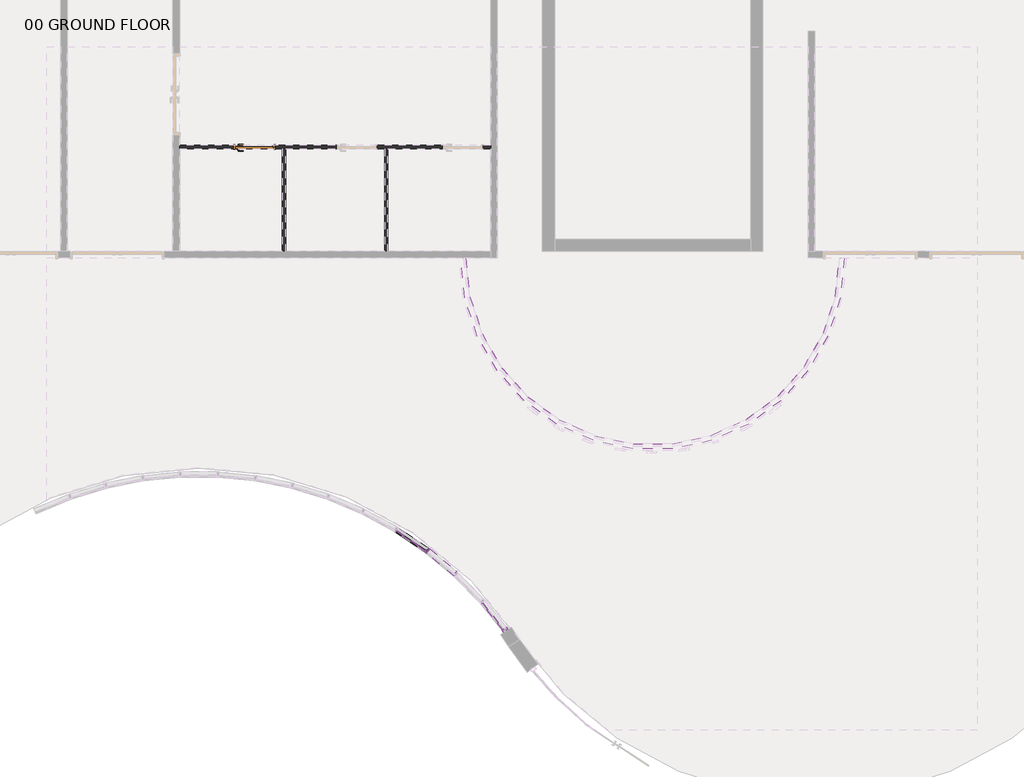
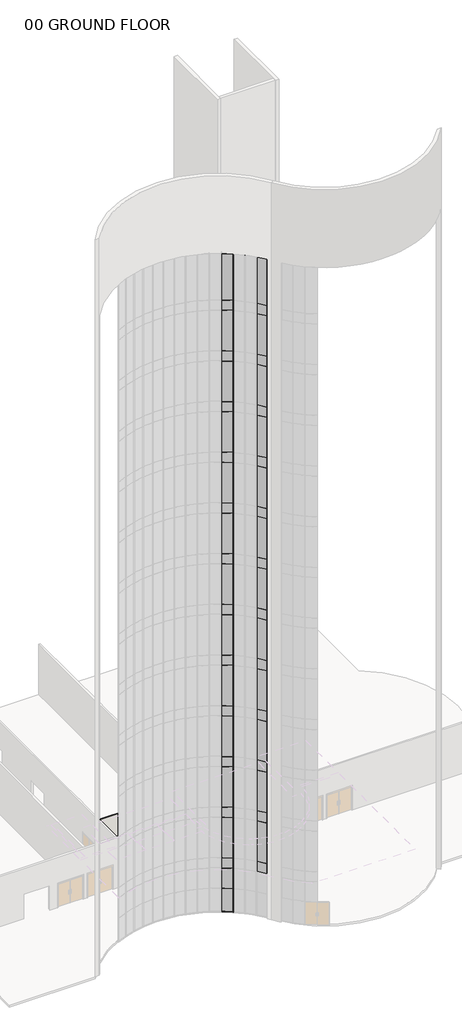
# One storey, part 12 of 33: 52 members, 50 plates, 4 walls, 1 door.
"""IFC4 building model written with IfcOpenShell, lengths in millimetres."""

from ifc_helpers import new_model, si_unit, frame, origin, origin_with_axes, place, context, project, spatial, polyline, circle_curve, outline, extrude, faceted_brep, transform, mapped, element, save
from ifc_brep_helpers import plane_surface, cylinder_surface, revolved_surface, advanced_brep
from components import door_f8b587be, member_2fae0574, member_73c23c35, member_4d31274b, member_ab6b85c2, member_7cbddb58, member_d60e8053, member_410c6227, member_810865a4, member_9e61c091, system_panel_su_blue_992d2dbe, system_panel_su_blue_f02faf6b, system_panel_su_blue_374c38cf, system_panel_su_blue_144861c6, system_panel_su_blue_3fa13865, system_panel_su_blue_654c3fe2, system_panel_su_blue_edec432c, system_panel_su_blue_af244712

model = new_model("IFC4")

# Units and contexts
model_context = context("Model", 3, world=origin())
ifc_project = project(units=[si_unit("LENGTHUNIT", "METRE", prefix="MILLI")], contexts=[model_context])

# Site, building, storey
site = spatial("IfcSite", under=ifc_project)
building = spatial("IfcBuilding", under=site)
storey = spatial("IfcBuildingStorey", under=building, Name="00 GROUND FLOOR", Elevation=0.0)

# Door
placement = place(None, origin())
door_shape = door_f8b587be(model_context)
element("IfcDoor", 1, ObjectType="Door-Passage-Single-Flush : 36\" x 96\"", at=placement, inside=storey, context=model_context, shape_type="MappedRepresentation", body=[
    mapped(door_shape, transform((16405.7775257, 11861.8, 0.0), x_axis=(1.0, 0.0, 0.0), y_axis=(0.0, 1.0, 0.0), z_axis=(0.0, 0.0, 1.0))),
])

# Members
member_shape = member_2fae0574(model_context)
element("IfcMember", 2, ObjectType="Rectangular Mullion : 2.5\" x 5\" rectangular", at=placement, inside=storey, context=model_context, shape_type="MappedRepresentation", body=[
    mapped(member_shape, transform((22378.5173022, 362.2740469, 3962.4), x_axis=(0.624940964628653, -0.7806720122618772, 0.0), y_axis=(0.7806720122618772, 0.624940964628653, 0.0), z_axis=(0.0, 0.0, 1.0))),
])
member_2_shape = member_73c23c35(model_context)
element("IfcMember", 3, ObjectType="Rectangular Mullion : 2.5\" x 5\" rectangular", at=placement, inside=storey, context=model_context, shape_type="MappedRepresentation", body=[
    mapped(member_2_shape, transform((22378.5173022, 362.2740469, 4876.8), x_axis=(0.624940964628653, -0.7806720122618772, 0.0), y_axis=(0.7806720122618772, 0.624940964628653, 0.0), z_axis=(0.0, 0.0, 1.0))),
])
element("IfcMember", 4, ObjectType="Rectangular Mullion : 2.5\" x 5\" rectangular", at=placement, inside=storey, context=model_context, shape_type="MappedRepresentation", body=[
    mapped(member_2_shape, transform((22378.5173022, 362.2740469, 9448.8), x_axis=(0.624940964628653, -0.7806720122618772, 0.0), y_axis=(0.7806720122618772, 0.624940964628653, 0.0), z_axis=(0.0, 0.0, 1.0))),
])
element("IfcMember", 5, ObjectType="Rectangular Mullion : 2.5\" x 5\" rectangular", at=placement, inside=storey, context=model_context, shape_type="MappedRepresentation", body=[
    mapped(member_2_shape, transform((22378.5173022, 362.2740469, 14020.8), x_axis=(0.624940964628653, -0.7806720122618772, 0.0), y_axis=(0.7806720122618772, 0.624940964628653, 0.0), z_axis=(0.0, 0.0, 1.0))),
])
element("IfcMember", 6, ObjectType="Rectangular Mullion : 2.5\" x 5\" rectangular", at=placement, inside=storey, context=model_context, shape_type="MappedRepresentation", body=[
    mapped(member_2_shape, transform((22378.5173022, 362.2740469, 18592.8), x_axis=(0.624940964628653, -0.7806720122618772, 0.0), y_axis=(0.7806720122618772, 0.624940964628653, 0.0), z_axis=(0.0, 0.0, 1.0))),
])
element("IfcMember", 7, ObjectType="Rectangular Mullion : 2.5\" x 5\" rectangular", at=placement, inside=storey, context=model_context, shape_type="MappedRepresentation", body=[
    mapped(member_2_shape, transform((22378.5173022, 362.2740469, 23164.8), x_axis=(0.624940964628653, -0.7806720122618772, 0.0), y_axis=(0.7806720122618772, 0.624940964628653, 0.0), z_axis=(0.0, 0.0, 1.0))),
])
element("IfcMember", 8, ObjectType="Rectangular Mullion : 2.5\" x 5\" rectangular", at=placement, inside=storey, context=model_context, shape_type="MappedRepresentation", body=[
    mapped(member_2_shape, transform((22378.5173022, 362.2740469, 27736.8), x_axis=(0.624940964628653, -0.7806720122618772, 0.0), y_axis=(0.7806720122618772, 0.624940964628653, 0.0), z_axis=(0.0, 0.0, 1.0))),
])
element("IfcMember", 9, ObjectType="Rectangular Mullion : 2.5\" x 5\" rectangular", at=placement, inside=storey, context=model_context, shape_type="MappedRepresentation", body=[
    mapped(member_2_shape, transform((22378.5173022, 362.2740469, 32308.8), x_axis=(0.624940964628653, -0.7806720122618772, 0.0), y_axis=(0.7806720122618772, 0.624940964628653, 0.0), z_axis=(0.0, 0.0, 1.0))),
])
element("IfcMember", 10, ObjectType="Rectangular Mullion : 2.5\" x 5\" rectangular", at=placement, inside=storey, context=model_context, shape_type="MappedRepresentation", body=[
    mapped(member_2_shape, transform((22378.5173022, 362.2740469, 36880.8), x_axis=(0.624940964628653, -0.7806720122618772, 0.0), y_axis=(0.7806720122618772, 0.624940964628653, 0.0), z_axis=(0.0, 0.0, 1.0))),
])
element("IfcMember", 11, ObjectType="Rectangular Mullion : 2.5\" x 5\" rectangular", at=placement, inside=storey, context=model_context, shape_type="MappedRepresentation", body=[
    mapped(member_2_shape, transform((22378.5173022, 362.2740469, 41452.8), x_axis=(0.624940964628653, -0.7806720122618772, 0.0), y_axis=(0.7806720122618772, 0.624940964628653, 0.0), z_axis=(0.0, 0.0, 1.0))),
])
element("IfcMember", 12, ObjectType="Rectangular Mullion : 2.5\" x 5\" rectangular", at=placement, inside=storey, context=model_context, shape_type="MappedRepresentation", body=[
    mapped(member_2_shape, transform((22378.5173022, 362.2740469, 46024.8), x_axis=(0.624940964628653, -0.7806720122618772, 0.0), y_axis=(0.7806720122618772, 0.624940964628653, 0.0), z_axis=(0.0, 0.0, 1.0))),
])
element("IfcMember", 13, ObjectType="Rectangular Mullion : 2.5\" x 5\" rectangular", at=placement, inside=storey, context=model_context, shape_type="MappedRepresentation", body=[
    mapped(member_2_shape, transform((22378.5173022, 362.2740469, 50596.8), x_axis=(0.624940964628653, -0.7806720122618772, 0.0), y_axis=(0.7806720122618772, 0.624940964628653, 0.0), z_axis=(0.0, 0.0, 1.0))),
])
element("IfcMember", 14, ObjectType="Rectangular Mullion : 2.5\" x 5\" rectangular", at=placement, inside=storey, context=model_context, shape_type="MappedRepresentation", body=[
    mapped(member_2_shape, transform((22378.5173022, 362.2740469, 55168.8), x_axis=(0.624940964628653, -0.7806720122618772, 0.0), y_axis=(0.7806720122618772, 0.624940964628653, 0.0), z_axis=(0.0, 0.0, 1.0))),
])
member_3_shape = member_4d31274b(model_context)
element("IfcMember", 15, ObjectType="Rectangular Mullion : 2.5\" x 5\" rectangular", at=placement, inside=storey, context=model_context, shape_type="MappedRepresentation", body=[
    mapped(member_3_shape, transform((22378.5173022, 362.2740469, 8534.4), x_axis=(0.624940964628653, -0.7806720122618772, 0.0), y_axis=(0.7806720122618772, 0.624940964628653, 0.0), z_axis=(0.0, 0.0, 1.0))),
])
element("IfcMember", 16, ObjectType="Rectangular Mullion : 2.5\" x 5\" rectangular", at=placement, inside=storey, context=model_context, shape_type="MappedRepresentation", body=[
    mapped(member_3_shape, transform((22378.5173022, 362.2740469, 13106.4), x_axis=(0.624940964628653, -0.7806720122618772, 0.0), y_axis=(0.7806720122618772, 0.624940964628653, 0.0), z_axis=(0.0, 0.0, 1.0))),
])
element("IfcMember", 17, ObjectType="Rectangular Mullion : 2.5\" x 5\" rectangular", at=placement, inside=storey, context=model_context, shape_type="MappedRepresentation", body=[
    mapped(member_3_shape, transform((22378.5173022, 362.2740469, 17678.4), x_axis=(0.624940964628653, -0.7806720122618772, 0.0), y_axis=(0.7806720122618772, 0.624940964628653, 0.0), z_axis=(0.0, 0.0, 1.0))),
])
element("IfcMember", 18, ObjectType="Rectangular Mullion : 2.5\" x 5\" rectangular", at=placement, inside=storey, context=model_context, shape_type="MappedRepresentation", body=[
    mapped(member_3_shape, transform((22378.5173022, 362.2740469, 22250.4), x_axis=(0.624940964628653, -0.7806720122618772, 0.0), y_axis=(0.7806720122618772, 0.624940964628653, 0.0), z_axis=(0.0, 0.0, 1.0))),
])
element("IfcMember", 19, ObjectType="Rectangular Mullion : 2.5\" x 5\" rectangular", at=placement, inside=storey, context=model_context, shape_type="MappedRepresentation", body=[
    mapped(member_3_shape, transform((22378.5173022, 362.2740469, 26822.4), x_axis=(0.624940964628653, -0.7806720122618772, 0.0), y_axis=(0.7806720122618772, 0.624940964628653, 0.0), z_axis=(0.0, 0.0, 1.0))),
])
element("IfcMember", 20, ObjectType="Rectangular Mullion : 2.5\" x 5\" rectangular", at=placement, inside=storey, context=model_context, shape_type="MappedRepresentation", body=[
    mapped(member_3_shape, transform((22378.5173022, 362.2740469, 31394.4), x_axis=(0.624940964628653, -0.7806720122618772, 0.0), y_axis=(0.7806720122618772, 0.624940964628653, 0.0), z_axis=(0.0, 0.0, 1.0))),
])
element("IfcMember", 21, ObjectType="Rectangular Mullion : 2.5\" x 5\" rectangular", at=placement, inside=storey, context=model_context, shape_type="MappedRepresentation", body=[
    mapped(member_3_shape, transform((22378.5173022, 362.2740469, 35966.4), x_axis=(0.624940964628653, -0.7806720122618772, 0.0), y_axis=(0.7806720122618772, 0.624940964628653, 0.0), z_axis=(0.0, 0.0, 1.0))),
])
element("IfcMember", 22, ObjectType="Rectangular Mullion : 2.5\" x 5\" rectangular", at=placement, inside=storey, context=model_context, shape_type="MappedRepresentation", body=[
    mapped(member_3_shape, transform((22378.5173022, 362.2740469, 40538.4), x_axis=(0.624940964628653, -0.7806720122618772, 0.0), y_axis=(0.7806720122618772, 0.624940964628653, 0.0), z_axis=(0.0, 0.0, 1.0))),
])
element("IfcMember", 23, ObjectType="Rectangular Mullion : 2.5\" x 5\" rectangular", at=placement, inside=storey, context=model_context, shape_type="MappedRepresentation", body=[
    mapped(member_3_shape, transform((22378.5173022, 362.2740469, 45110.4), x_axis=(0.624940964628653, -0.7806720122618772, 0.0), y_axis=(0.7806720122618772, 0.624940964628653, 0.0), z_axis=(0.0, 0.0, 1.0))),
])
element("IfcMember", 24, ObjectType="Rectangular Mullion : 2.5\" x 5\" rectangular", at=placement, inside=storey, context=model_context, shape_type="MappedRepresentation", body=[
    mapped(member_3_shape, transform((22378.5173022, 362.2740469, 49682.4), x_axis=(0.624940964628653, -0.7806720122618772, 0.0), y_axis=(0.7806720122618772, 0.624940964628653, 0.0), z_axis=(0.0, 0.0, 1.0))),
])
element("IfcMember", 25, ObjectType="Rectangular Mullion : 2.5\" x 5\" rectangular", at=placement, inside=storey, context=model_context, shape_type="MappedRepresentation", body=[
    mapped(member_3_shape, transform((22378.5173022, 362.2740469, 54254.4), x_axis=(0.624940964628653, -0.7806720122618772, 0.0), y_axis=(0.7806720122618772, 0.624940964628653, 0.0), z_axis=(0.0, 0.0, 1.0))),
])
member_4_shape = member_ab6b85c2(model_context)
element("IfcMember", 26, ObjectType="Rectangular Mullion : 2.5\" x 5\" rectangular", at=placement, inside=storey, context=model_context, shape_type="MappedRepresentation", body=[
    mapped(member_4_shape, transform((20532.7602276, 2252.9055245, 59436.0), x_axis=(0.0, 0.0, 1.0), y_axis=(0.6416802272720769, 0.7669722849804, 0.0), z_axis=(-0.7669722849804, 0.6416802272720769, 0.0))),
])
element("IfcMember", 27, ObjectType="Rectangular Mullion : 2.5\" x 5\" rectangular", at=placement, inside=storey, context=model_context, shape_type="MappedRepresentation", body=[
    mapped(member_4_shape, transform((20482.1536487, 2291.1317848, 0.0), x_axis=(0.0, 0.0, -1.0), y_axis=(0.562296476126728, 0.8269357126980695, 0.0), z_axis=(0.8269357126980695, -0.562296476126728, 0.0))),
])
member_5_shape = member_7cbddb58(model_context)
element("IfcMember", 28, ObjectType="Rectangular Mullion : 2.5\" x 5\" rectangular", at=placement, inside=storey, context=model_context, shape_type="MappedRepresentation", body=[
    mapped(member_5_shape, transform((20508.4088575, 2273.2788717, 0.0), x_axis=(-0.797941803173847, 0.6027345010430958, 0.0), y_axis=(0.6027345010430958, 0.797941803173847, 0.0), z_axis=(0.0, 0.0, -1.0))),
])
member_6_shape = member_d60e8053(model_context)
element("IfcMember", 29, ObjectType="Rectangular Mullion : 2.5\" x 5\" rectangular", at=placement, inside=storey, context=model_context, shape_type="MappedRepresentation", body=[
    mapped(member_6_shape, transform((20508.4088575, 2273.2788717, 2133.6), x_axis=(-0.797941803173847, 0.6027345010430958, 0.0), y_axis=(0.6027345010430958, 0.797941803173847, 0.0), z_axis=(0.0, 0.0, -1.0))),
])
member_7_shape = member_410c6227(model_context)
element("IfcMember", 30, ObjectType="Rectangular Mullion : 2.5\" x 5\" rectangular", at=placement, inside=storey, context=model_context, shape_type="MappedRepresentation", body=[
    mapped(member_7_shape, transform((20508.4088575, 2273.2788717, 3962.4), x_axis=(-0.797941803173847, 0.6027345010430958, 0.0), y_axis=(0.6027345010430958, 0.797941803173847, 0.0), z_axis=(0.0, 0.0, -1.0))),
])
element("IfcMember", 31, ObjectType="Rectangular Mullion : 2.5\" x 5\" rectangular", at=placement, inside=storey, context=model_context, shape_type="MappedRepresentation", body=[
    mapped(member_7_shape, transform((20508.4088575, 2273.2788717, 8534.4), x_axis=(-0.797941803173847, 0.6027345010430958, 0.0), y_axis=(0.6027345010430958, 0.797941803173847, 0.0), z_axis=(0.0, 0.0, -1.0))),
])
element("IfcMember", 32, ObjectType="Rectangular Mullion : 2.5\" x 5\" rectangular", at=placement, inside=storey, context=model_context, shape_type="MappedRepresentation", body=[
    mapped(member_7_shape, transform((20508.4088575, 2273.2788717, 13106.4), x_axis=(-0.797941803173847, 0.6027345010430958, 0.0), y_axis=(0.6027345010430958, 0.797941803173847, 0.0), z_axis=(0.0, 0.0, -1.0))),
])
element("IfcMember", 33, ObjectType="Rectangular Mullion : 2.5\" x 5\" rectangular", at=placement, inside=storey, context=model_context, shape_type="MappedRepresentation", body=[
    mapped(member_7_shape, transform((20508.4088575, 2273.2788717, 17678.4), x_axis=(-0.797941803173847, 0.6027345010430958, 0.0), y_axis=(0.6027345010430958, 0.797941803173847, 0.0), z_axis=(0.0, 0.0, -1.0))),
])
element("IfcMember", 34, ObjectType="Rectangular Mullion : 2.5\" x 5\" rectangular", at=placement, inside=storey, context=model_context, shape_type="MappedRepresentation", body=[
    mapped(member_7_shape, transform((20508.4088575, 2273.2788717, 22250.4), x_axis=(-0.797941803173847, 0.6027345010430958, 0.0), y_axis=(0.6027345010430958, 0.797941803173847, 0.0), z_axis=(0.0, 0.0, -1.0))),
])
element("IfcMember", 35, ObjectType="Rectangular Mullion : 2.5\" x 5\" rectangular", at=placement, inside=storey, context=model_context, shape_type="MappedRepresentation", body=[
    mapped(member_7_shape, transform((20508.4088575, 2273.2788717, 26822.4), x_axis=(-0.797941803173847, 0.6027345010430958, 0.0), y_axis=(0.6027345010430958, 0.797941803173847, 0.0), z_axis=(0.0, 0.0, -1.0))),
])
element("IfcMember", 36, ObjectType="Rectangular Mullion : 2.5\" x 5\" rectangular", at=placement, inside=storey, context=model_context, shape_type="MappedRepresentation", body=[
    mapped(member_7_shape, transform((20508.4088575, 2273.2788717, 31394.4), x_axis=(-0.797941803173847, 0.6027345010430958, 0.0), y_axis=(0.6027345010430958, 0.797941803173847, 0.0), z_axis=(0.0, 0.0, -1.0))),
])
element("IfcMember", 37, ObjectType="Rectangular Mullion : 2.5\" x 5\" rectangular", at=placement, inside=storey, context=model_context, shape_type="MappedRepresentation", body=[
    mapped(member_7_shape, transform((20508.4088575, 2273.2788717, 35966.4), x_axis=(-0.797941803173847, 0.6027345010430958, 0.0), y_axis=(0.6027345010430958, 0.797941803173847, 0.0), z_axis=(0.0, 0.0, -1.0))),
])
element("IfcMember", 38, ObjectType="Rectangular Mullion : 2.5\" x 5\" rectangular", at=placement, inside=storey, context=model_context, shape_type="MappedRepresentation", body=[
    mapped(member_7_shape, transform((20508.4088575, 2273.2788717, 40538.4), x_axis=(-0.797941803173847, 0.6027345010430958, 0.0), y_axis=(0.6027345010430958, 0.797941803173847, 0.0), z_axis=(0.0, 0.0, -1.0))),
])
element("IfcMember", 39, ObjectType="Rectangular Mullion : 2.5\" x 5\" rectangular", at=placement, inside=storey, context=model_context, shape_type="MappedRepresentation", body=[
    mapped(member_7_shape, transform((20508.4088575, 2273.2788717, 45110.4), x_axis=(-0.797941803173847, 0.6027345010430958, 0.0), y_axis=(0.6027345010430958, 0.797941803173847, 0.0), z_axis=(0.0, 0.0, -1.0))),
])
element("IfcMember", 40, ObjectType="Rectangular Mullion : 2.5\" x 5\" rectangular", at=placement, inside=storey, context=model_context, shape_type="MappedRepresentation", body=[
    mapped(member_7_shape, transform((20508.4088575, 2273.2788717, 49682.4), x_axis=(-0.7979418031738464, 0.6027345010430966, 0.0), y_axis=(0.6027345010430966, 0.7979418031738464, 0.0), z_axis=(0.0, 0.0, -1.0))),
])
element("IfcMember", 41, ObjectType="Rectangular Mullion : 2.5\" x 5\" rectangular", at=placement, inside=storey, context=model_context, shape_type="MappedRepresentation", body=[
    mapped(member_7_shape, transform((20508.4088575, 2273.2788717, 54254.4), x_axis=(-0.7979418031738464, 0.6027345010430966, 0.0), y_axis=(0.6027345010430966, 0.7979418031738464, 0.0), z_axis=(0.0, 0.0, -1.0))),
])
member_8_shape = member_810865a4(model_context)
element("IfcMember", 42, ObjectType="Rectangular Mullion : 2.5\" x 5\" rectangular", at=placement, inside=storey, context=model_context, shape_type="MappedRepresentation", body=[
    mapped(member_8_shape, transform((20508.4088575, 2273.2788717, 4876.8), x_axis=(-0.797941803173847, 0.6027345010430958, 0.0), y_axis=(0.6027345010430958, 0.797941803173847, 0.0), z_axis=(0.0, 0.0, -1.0))),
])
element("IfcMember", 43, ObjectType="Rectangular Mullion : 2.5\" x 5\" rectangular", at=placement, inside=storey, context=model_context, shape_type="MappedRepresentation", body=[
    mapped(member_8_shape, transform((20508.4088575, 2273.2788717, 9448.8), x_axis=(-0.797941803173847, 0.6027345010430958, 0.0), y_axis=(0.6027345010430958, 0.797941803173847, 0.0), z_axis=(0.0, 0.0, -1.0))),
])
element("IfcMember", 44, ObjectType="Rectangular Mullion : 2.5\" x 5\" rectangular", at=placement, inside=storey, context=model_context, shape_type="MappedRepresentation", body=[
    mapped(member_8_shape, transform((20508.4088575, 2273.2788717, 14020.8), x_axis=(-0.797941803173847, 0.6027345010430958, 0.0), y_axis=(0.6027345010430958, 0.797941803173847, 0.0), z_axis=(0.0, 0.0, -1.0))),
])
element("IfcMember", 45, ObjectType="Rectangular Mullion : 2.5\" x 5\" rectangular", at=placement, inside=storey, context=model_context, shape_type="MappedRepresentation", body=[
    mapped(member_8_shape, transform((20508.4088575, 2273.2788717, 18592.8), x_axis=(-0.797941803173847, 0.6027345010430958, 0.0), y_axis=(0.6027345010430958, 0.797941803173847, 0.0), z_axis=(0.0, 0.0, -1.0))),
])
element("IfcMember", 46, ObjectType="Rectangular Mullion : 2.5\" x 5\" rectangular", at=placement, inside=storey, context=model_context, shape_type="MappedRepresentation", body=[
    mapped(member_8_shape, transform((20508.4088575, 2273.2788717, 23164.8), x_axis=(-0.797941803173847, 0.6027345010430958, 0.0), y_axis=(0.6027345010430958, 0.797941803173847, 0.0), z_axis=(0.0, 0.0, -1.0))),
])
element("IfcMember", 47, ObjectType="Rectangular Mullion : 2.5\" x 5\" rectangular", at=placement, inside=storey, context=model_context, shape_type="MappedRepresentation", body=[
    mapped(member_8_shape, transform((20508.4088575, 2273.2788717, 27736.8), x_axis=(-0.797941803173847, 0.6027345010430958, 0.0), y_axis=(0.6027345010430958, 0.797941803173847, 0.0), z_axis=(0.0, 0.0, -1.0))),
])
element("IfcMember", 48, ObjectType="Rectangular Mullion : 2.5\" x 5\" rectangular", at=placement, inside=storey, context=model_context, shape_type="MappedRepresentation", body=[
    mapped(member_8_shape, transform((20508.4088575, 2273.2788717, 32308.8), x_axis=(-0.797941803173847, 0.6027345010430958, 0.0), y_axis=(0.6027345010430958, 0.797941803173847, 0.0), z_axis=(0.0, 0.0, -1.0))),
])
element("IfcMember", 49, ObjectType="Rectangular Mullion : 2.5\" x 5\" rectangular", at=placement, inside=storey, context=model_context, shape_type="MappedRepresentation", body=[
    mapped(member_8_shape, transform((20508.4088575, 2273.2788717, 36880.8), x_axis=(-0.797941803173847, 0.6027345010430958, 0.0), y_axis=(0.6027345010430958, 0.797941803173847, 0.0), z_axis=(0.0, 0.0, -1.0))),
])
element("IfcMember", 50, ObjectType="Rectangular Mullion : 2.5\" x 5\" rectangular", at=placement, inside=storey, context=model_context, shape_type="MappedRepresentation", body=[
    mapped(member_8_shape, transform((20508.4088575, 2273.2788717, 41452.8), x_axis=(-0.797941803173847, 0.6027345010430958, 0.0), y_axis=(0.6027345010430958, 0.797941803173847, 0.0), z_axis=(0.0, 0.0, -1.0))),
])
element("IfcMember", 51, ObjectType="Rectangular Mullion : 2.5\" x 5\" rectangular", at=placement, inside=storey, context=model_context, shape_type="MappedRepresentation", body=[
    mapped(member_8_shape, transform((20508.4088575, 2273.2788717, 46024.8), x_axis=(-0.7979418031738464, 0.6027345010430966, 0.0), y_axis=(0.6027345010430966, 0.7979418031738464, 0.0), z_axis=(0.0, 0.0, -1.0))),
])
element("IfcMember", 52, ObjectType="Rectangular Mullion : 2.5\" x 5\" rectangular", at=placement, inside=storey, context=model_context, shape_type="MappedRepresentation", body=[
    mapped(member_8_shape, transform((20508.4088575, 2273.2788717, 50596.8), x_axis=(-0.7979418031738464, 0.6027345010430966, 0.0), y_axis=(0.6027345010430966, 0.7979418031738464, 0.0), z_axis=(0.0, 0.0, -1.0))),
])
member_9_shape = member_9e61c091(model_context)
element("IfcMember", 53, ObjectType="Rectangular Mullion : 2.5\" x 5\" rectangular", at=placement, inside=storey, context=model_context, shape_type="MappedRepresentation", body=[
    mapped(member_9_shape, transform((20508.4088575, 2273.2788717, 55168.8), x_axis=(-0.7979418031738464, 0.6027345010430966, 0.0), y_axis=(0.6027345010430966, 0.7979418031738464, 0.0), z_axis=(0.0, 0.0, -1.0))),
])

# Plates
system_panel_su_blue_shape = system_panel_su_blue_992d2dbe(model_context)
element("IfcPlate", 54, ObjectType="System Panel : SU_BLUE", at=placement, inside=storey, context=model_context, shape_type="MappedRepresentation", body=[
    mapped(system_panel_su_blue_shape, transform((20138.6779553, 2524.6870286, 63.5), x_axis=(-0.8269357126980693, 0.5622964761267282, 0.0), y_axis=(-0.5622964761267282, -0.8269357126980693, 0.0), z_axis=(0.0, 0.0, 1.0))),
])
system_panel_su_blue_2_shape = system_panel_su_blue_f02faf6b(model_context)
element("IfcPlate", 55, ObjectType="System Panel : SU_BLUE", at=placement, inside=storey, context=model_context, shape_type="MappedRepresentation", body=[
    mapped(system_panel_su_blue_2_shape, transform((20138.6779553, 2524.6870286, 2133.6), x_axis=(-0.8269357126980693, 0.5622964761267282, 0.0), y_axis=(-0.5622964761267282, -0.8269357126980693, 0.0), z_axis=(0.0, 0.0, 1.0))),
])
system_panel_su_blue_3_shape = system_panel_su_blue_374c38cf(model_context)
element("IfcPlate", 56, ObjectType="System Panel : SU_BLUE", at=placement, inside=storey, context=model_context, shape_type="MappedRepresentation", body=[
    mapped(system_panel_su_blue_3_shape, transform((22089.1792519, 723.7131758, 3962.4), x_axis=(-0.624940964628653, 0.7806720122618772, 0.0), y_axis=(-0.7806720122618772, -0.624940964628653, 0.0), z_axis=(0.0, 0.0, 1.0))),
])
element("IfcPlate", 57, ObjectType="System Panel : SU_BLUE", at=placement, inside=storey, context=model_context, shape_type="MappedRepresentation", body=[
    mapped(system_panel_su_blue_3_shape, transform((22089.1792519, 723.7131758, 8534.4), x_axis=(-0.624940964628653, 0.7806720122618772, 0.0), y_axis=(-0.7806720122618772, -0.624940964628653, 0.0), z_axis=(0.0, 0.0, 1.0))),
])
element("IfcPlate", 58, ObjectType="System Panel : SU_BLUE", at=placement, inside=storey, context=model_context, shape_type="MappedRepresentation", body=[
    mapped(system_panel_su_blue_3_shape, transform((22089.1792519, 723.7131758, 13106.4), x_axis=(-0.624940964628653, 0.7806720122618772, 0.0), y_axis=(-0.7806720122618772, -0.624940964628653, 0.0), z_axis=(0.0, 0.0, 1.0))),
])
element("IfcPlate", 59, ObjectType="System Panel : SU_BLUE", at=placement, inside=storey, context=model_context, shape_type="MappedRepresentation", body=[
    mapped(system_panel_su_blue_3_shape, transform((22089.1792519, 723.7131758, 17678.4), x_axis=(-0.624940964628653, 0.7806720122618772, 0.0), y_axis=(-0.7806720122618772, -0.624940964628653, 0.0), z_axis=(0.0, 0.0, 1.0))),
])
element("IfcPlate", 60, ObjectType="System Panel : SU_BLUE", at=placement, inside=storey, context=model_context, shape_type="MappedRepresentation", body=[
    mapped(system_panel_su_blue_3_shape, transform((22089.1792519, 723.7131758, 22250.4), x_axis=(-0.624940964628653, 0.7806720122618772, 0.0), y_axis=(-0.7806720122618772, -0.624940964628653, 0.0), z_axis=(0.0, 0.0, 1.0))),
])
element("IfcPlate", 61, ObjectType="System Panel : SU_BLUE", at=placement, inside=storey, context=model_context, shape_type="MappedRepresentation", body=[
    mapped(system_panel_su_blue_3_shape, transform((22089.1792519, 723.7131758, 26822.4), x_axis=(-0.624940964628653, 0.7806720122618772, 0.0), y_axis=(-0.7806720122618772, -0.624940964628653, 0.0), z_axis=(0.0, 0.0, 1.0))),
])
element("IfcPlate", 62, ObjectType="System Panel : SU_BLUE", at=placement, inside=storey, context=model_context, shape_type="MappedRepresentation", body=[
    mapped(system_panel_su_blue_3_shape, transform((22089.1792519, 723.7131758, 31394.4), x_axis=(-0.624940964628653, 0.7806720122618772, 0.0), y_axis=(-0.7806720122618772, -0.624940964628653, 0.0), z_axis=(0.0, 0.0, 1.0))),
])
element("IfcPlate", 63, ObjectType="System Panel : SU_BLUE", at=placement, inside=storey, context=model_context, shape_type="MappedRepresentation", body=[
    mapped(system_panel_su_blue_3_shape, transform((22089.1792519, 723.7131758, 35966.4), x_axis=(-0.624940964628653, 0.7806720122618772, 0.0), y_axis=(-0.7806720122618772, -0.624940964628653, 0.0), z_axis=(0.0, 0.0, 1.0))),
])
element("IfcPlate", 64, ObjectType="System Panel : SU_BLUE", at=placement, inside=storey, context=model_context, shape_type="MappedRepresentation", body=[
    mapped(system_panel_su_blue_3_shape, transform((22089.1792519, 723.7131758, 40538.4), x_axis=(-0.624940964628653, 0.7806720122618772, 0.0), y_axis=(-0.7806720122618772, -0.624940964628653, 0.0), z_axis=(0.0, 0.0, 1.0))),
])
element("IfcPlate", 65, ObjectType="System Panel : SU_BLUE", at=placement, inside=storey, context=model_context, shape_type="MappedRepresentation", body=[
    mapped(system_panel_su_blue_3_shape, transform((22089.1792519, 723.7131758, 45110.4), x_axis=(-0.624940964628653, 0.7806720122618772, 0.0), y_axis=(-0.7806720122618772, -0.624940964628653, 0.0), z_axis=(0.0, 0.0, 1.0))),
])
element("IfcPlate", 66, ObjectType="System Panel : SU_BLUE", at=placement, inside=storey, context=model_context, shape_type="MappedRepresentation", body=[
    mapped(system_panel_su_blue_3_shape, transform((22089.1792519, 723.7131758, 49682.4), x_axis=(-0.624940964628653, 0.7806720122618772, 0.0), y_axis=(-0.7806720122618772, -0.624940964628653, 0.0), z_axis=(0.0, 0.0, 1.0))),
])
element("IfcPlate", 67, ObjectType="System Panel : SU_BLUE", at=placement, inside=storey, context=model_context, shape_type="MappedRepresentation", body=[
    mapped(system_panel_su_blue_3_shape, transform((22089.1792519, 723.7131758, 54254.4), x_axis=(-0.624940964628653, 0.7806720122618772, 0.0), y_axis=(-0.7806720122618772, -0.624940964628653, 0.0), z_axis=(0.0, 0.0, 1.0))),
])
system_panel_su_blue_4_shape = system_panel_su_blue_144861c6(model_context)
element("IfcPlate", 68, ObjectType="System Panel : SU_BLUE", at=placement, inside=storey, context=model_context, shape_type="MappedRepresentation", body=[
    mapped(system_panel_su_blue_4_shape, transform((20138.6779553, 2524.6870286, 3962.4), x_axis=(-0.8269357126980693, 0.5622964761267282, 0.0), y_axis=(-0.5622964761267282, -0.8269357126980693, 0.0), z_axis=(0.0, 0.0, 1.0))),
])
element("IfcPlate", 69, ObjectType="System Panel : SU_BLUE", at=placement, inside=storey, context=model_context, shape_type="MappedRepresentation", body=[
    mapped(system_panel_su_blue_4_shape, transform((20138.6779553, 2524.6870286, 8534.4), x_axis=(-0.8269357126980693, 0.5622964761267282, 0.0), y_axis=(-0.5622964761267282, -0.8269357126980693, 0.0), z_axis=(0.0, 0.0, 1.0))),
])
element("IfcPlate", 70, ObjectType="System Panel : SU_BLUE", at=placement, inside=storey, context=model_context, shape_type="MappedRepresentation", body=[
    mapped(system_panel_su_blue_4_shape, transform((20138.6779553, 2524.6870286, 13106.4), x_axis=(-0.8269357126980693, 0.5622964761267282, 0.0), y_axis=(-0.5622964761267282, -0.8269357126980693, 0.0), z_axis=(0.0, 0.0, 1.0))),
])
element("IfcPlate", 71, ObjectType="System Panel : SU_BLUE", at=placement, inside=storey, context=model_context, shape_type="MappedRepresentation", body=[
    mapped(system_panel_su_blue_4_shape, transform((20138.6779553, 2524.6870286, 17678.4), x_axis=(-0.8269357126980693, 0.5622964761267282, 0.0), y_axis=(-0.5622964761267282, -0.8269357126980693, 0.0), z_axis=(0.0, 0.0, 1.0))),
])
element("IfcPlate", 72, ObjectType="System Panel : SU_BLUE", at=placement, inside=storey, context=model_context, shape_type="MappedRepresentation", body=[
    mapped(system_panel_su_blue_4_shape, transform((20138.6779553, 2524.6870286, 22250.4), x_axis=(-0.8269357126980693, 0.5622964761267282, 0.0), y_axis=(-0.5622964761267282, -0.8269357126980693, 0.0), z_axis=(0.0, 0.0, 1.0))),
])
element("IfcPlate", 73, ObjectType="System Panel : SU_BLUE", at=placement, inside=storey, context=model_context, shape_type="MappedRepresentation", body=[
    mapped(system_panel_su_blue_4_shape, transform((20138.6779553, 2524.6870286, 26822.4), x_axis=(-0.8269357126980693, 0.5622964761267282, 0.0), y_axis=(-0.5622964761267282, -0.8269357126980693, 0.0), z_axis=(0.0, 0.0, 1.0))),
])
element("IfcPlate", 74, ObjectType="System Panel : SU_BLUE", at=placement, inside=storey, context=model_context, shape_type="MappedRepresentation", body=[
    mapped(system_panel_su_blue_4_shape, transform((20138.6779553, 2524.6870286, 31394.4), x_axis=(-0.8269357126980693, 0.5622964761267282, 0.0), y_axis=(-0.5622964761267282, -0.8269357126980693, 0.0), z_axis=(0.0, 0.0, 1.0))),
])
element("IfcPlate", 75, ObjectType="System Panel : SU_BLUE", at=placement, inside=storey, context=model_context, shape_type="MappedRepresentation", body=[
    mapped(system_panel_su_blue_4_shape, transform((20138.6779553, 2524.6870286, 35966.4), x_axis=(-0.8269357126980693, 0.5622964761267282, 0.0), y_axis=(-0.5622964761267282, -0.8269357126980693, 0.0), z_axis=(0.0, 0.0, 1.0))),
])
element("IfcPlate", 76, ObjectType="System Panel : SU_BLUE", at=placement, inside=storey, context=model_context, shape_type="MappedRepresentation", body=[
    mapped(system_panel_su_blue_4_shape, transform((20138.6779553, 2524.6870286, 40538.4), x_axis=(-0.8269357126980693, 0.5622964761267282, 0.0), y_axis=(-0.5622964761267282, -0.8269357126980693, 0.0), z_axis=(0.0, 0.0, 1.0))),
])
element("IfcPlate", 77, ObjectType="System Panel : SU_BLUE", at=placement, inside=storey, context=model_context, shape_type="MappedRepresentation", body=[
    mapped(system_panel_su_blue_4_shape, transform((20138.6779553, 2524.6870286, 45110.4), x_axis=(-0.8269357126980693, 0.5622964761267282, 0.0), y_axis=(-0.5622964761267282, -0.8269357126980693, 0.0), z_axis=(0.0, 0.0, 1.0))),
])
element("IfcPlate", 78, ObjectType="System Panel : SU_BLUE", at=placement, inside=storey, context=model_context, shape_type="MappedRepresentation", body=[
    mapped(system_panel_su_blue_4_shape, transform((20138.6779553, 2524.6870286, 49682.4), x_axis=(-0.8269357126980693, 0.5622964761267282, 0.0), y_axis=(-0.5622964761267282, -0.8269357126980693, 0.0), z_axis=(0.0, 0.0, 1.0))),
])
element("IfcPlate", 79, ObjectType="System Panel : SU_BLUE", at=placement, inside=storey, context=model_context, shape_type="MappedRepresentation", body=[
    mapped(system_panel_su_blue_4_shape, transform((20138.6779553, 2524.6870286, 54254.4), x_axis=(-0.8269357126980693, 0.5622964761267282, 0.0), y_axis=(-0.5622964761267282, -0.8269357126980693, 0.0), z_axis=(0.0, 0.0, 1.0))),
])
system_panel_su_blue_5_shape = system_panel_su_blue_3fa13865(model_context)
element("IfcPlate", 80, ObjectType="System Panel : SU_BLUE", at=placement, inside=storey, context=model_context, shape_type="MappedRepresentation", body=[
    mapped(system_panel_su_blue_5_shape, transform((22089.1792519, 723.7131758, 4876.8), x_axis=(-0.624940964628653, 0.7806720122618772, 0.0), y_axis=(-0.7806720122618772, -0.624940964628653, 0.0), z_axis=(0.0, 0.0, 1.0))),
])
element("IfcPlate", 81, ObjectType="System Panel : SU_BLUE", at=placement, inside=storey, context=model_context, shape_type="MappedRepresentation", body=[
    mapped(system_panel_su_blue_5_shape, transform((22089.1792519, 723.7131758, 9448.8), x_axis=(-0.624940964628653, 0.7806720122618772, 0.0), y_axis=(-0.7806720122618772, -0.624940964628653, 0.0), z_axis=(0.0, 0.0, 1.0))),
])
element("IfcPlate", 82, ObjectType="System Panel : SU_BLUE", at=placement, inside=storey, context=model_context, shape_type="MappedRepresentation", body=[
    mapped(system_panel_su_blue_5_shape, transform((22089.1792519, 723.7131758, 14020.8), x_axis=(-0.624940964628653, 0.7806720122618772, 0.0), y_axis=(-0.7806720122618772, -0.624940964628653, 0.0), z_axis=(0.0, 0.0, 1.0))),
])
element("IfcPlate", 83, ObjectType="System Panel : SU_BLUE", at=placement, inside=storey, context=model_context, shape_type="MappedRepresentation", body=[
    mapped(system_panel_su_blue_5_shape, transform((22089.1792519, 723.7131758, 18592.8), x_axis=(-0.624940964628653, 0.7806720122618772, 0.0), y_axis=(-0.7806720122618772, -0.624940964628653, 0.0), z_axis=(0.0, 0.0, 1.0))),
])
element("IfcPlate", 84, ObjectType="System Panel : SU_BLUE", at=placement, inside=storey, context=model_context, shape_type="MappedRepresentation", body=[
    mapped(system_panel_su_blue_5_shape, transform((22089.1792519, 723.7131758, 23164.8), x_axis=(-0.624940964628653, 0.7806720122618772, 0.0), y_axis=(-0.7806720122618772, -0.624940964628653, 0.0), z_axis=(0.0, 0.0, 1.0))),
])
element("IfcPlate", 85, ObjectType="System Panel : SU_BLUE", at=placement, inside=storey, context=model_context, shape_type="MappedRepresentation", body=[
    mapped(system_panel_su_blue_5_shape, transform((22089.1792519, 723.7131758, 27736.8), x_axis=(-0.624940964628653, 0.7806720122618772, 0.0), y_axis=(-0.7806720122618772, -0.624940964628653, 0.0), z_axis=(0.0, 0.0, 1.0))),
])
element("IfcPlate", 86, ObjectType="System Panel : SU_BLUE", at=placement, inside=storey, context=model_context, shape_type="MappedRepresentation", body=[
    mapped(system_panel_su_blue_5_shape, transform((22089.1792519, 723.7131758, 32308.8), x_axis=(-0.624940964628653, 0.7806720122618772, 0.0), y_axis=(-0.7806720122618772, -0.624940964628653, 0.0), z_axis=(0.0, 0.0, 1.0))),
])
element("IfcPlate", 87, ObjectType="System Panel : SU_BLUE", at=placement, inside=storey, context=model_context, shape_type="MappedRepresentation", body=[
    mapped(system_panel_su_blue_5_shape, transform((22089.1792519, 723.7131758, 36880.8), x_axis=(-0.624940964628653, 0.7806720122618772, 0.0), y_axis=(-0.7806720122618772, -0.624940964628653, 0.0), z_axis=(0.0, 0.0, 1.0))),
])
element("IfcPlate", 88, ObjectType="System Panel : SU_BLUE", at=placement, inside=storey, context=model_context, shape_type="MappedRepresentation", body=[
    mapped(system_panel_su_blue_5_shape, transform((22089.1792519, 723.7131758, 41452.8), x_axis=(-0.624940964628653, 0.7806720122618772, 0.0), y_axis=(-0.7806720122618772, -0.624940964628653, 0.0), z_axis=(0.0, 0.0, 1.0))),
])
element("IfcPlate", 89, ObjectType="System Panel : SU_BLUE", at=placement, inside=storey, context=model_context, shape_type="MappedRepresentation", body=[
    mapped(system_panel_su_blue_5_shape, transform((22089.1792519, 723.7131758, 46024.8), x_axis=(-0.624940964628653, 0.7806720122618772, 0.0), y_axis=(-0.7806720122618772, -0.624940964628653, 0.0), z_axis=(0.0, 0.0, 1.0))),
])
element("IfcPlate", 90, ObjectType="System Panel : SU_BLUE", at=placement, inside=storey, context=model_context, shape_type="MappedRepresentation", body=[
    mapped(system_panel_su_blue_5_shape, transform((22089.1792519, 723.7131758, 50596.8), x_axis=(-0.624940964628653, 0.7806720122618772, 0.0), y_axis=(-0.7806720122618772, -0.624940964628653, 0.0), z_axis=(0.0, 0.0, 1.0))),
])
system_panel_su_blue_6_shape = system_panel_su_blue_654c3fe2(model_context)
element("IfcPlate", 91, ObjectType="System Panel : SU_BLUE", at=placement, inside=storey, context=model_context, shape_type="MappedRepresentation", body=[
    mapped(system_panel_su_blue_6_shape, transform((20138.6779553, 2524.6870286, 4876.8), x_axis=(-0.8269357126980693, 0.5622964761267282, 0.0), y_axis=(-0.5622964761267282, -0.8269357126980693, 0.0), z_axis=(0.0, 0.0, 1.0))),
])
element("IfcPlate", 92, ObjectType="System Panel : SU_BLUE", at=placement, inside=storey, context=model_context, shape_type="MappedRepresentation", body=[
    mapped(system_panel_su_blue_6_shape, transform((20138.6779553, 2524.6870286, 9448.8), x_axis=(-0.8269357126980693, 0.5622964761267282, 0.0), y_axis=(-0.5622964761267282, -0.8269357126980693, 0.0), z_axis=(0.0, 0.0, 1.0))),
])
element("IfcPlate", 93, ObjectType="System Panel : SU_BLUE", at=placement, inside=storey, context=model_context, shape_type="MappedRepresentation", body=[
    mapped(system_panel_su_blue_6_shape, transform((20138.6779553, 2524.6870286, 14020.8), x_axis=(-0.8269357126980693, 0.5622964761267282, 0.0), y_axis=(-0.5622964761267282, -0.8269357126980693, 0.0), z_axis=(0.0, 0.0, 1.0))),
])
element("IfcPlate", 94, ObjectType="System Panel : SU_BLUE", at=placement, inside=storey, context=model_context, shape_type="MappedRepresentation", body=[
    mapped(system_panel_su_blue_6_shape, transform((20138.6779553, 2524.6870286, 18592.8), x_axis=(-0.8269357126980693, 0.5622964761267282, 0.0), y_axis=(-0.5622964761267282, -0.8269357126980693, 0.0), z_axis=(0.0, 0.0, 1.0))),
])
element("IfcPlate", 95, ObjectType="System Panel : SU_BLUE", at=placement, inside=storey, context=model_context, shape_type="MappedRepresentation", body=[
    mapped(system_panel_su_blue_6_shape, transform((20138.6779553, 2524.6870286, 23164.8), x_axis=(-0.8269357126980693, 0.5622964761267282, 0.0), y_axis=(-0.5622964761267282, -0.8269357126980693, 0.0), z_axis=(0.0, 0.0, 1.0))),
])
element("IfcPlate", 96, ObjectType="System Panel : SU_BLUE", at=placement, inside=storey, context=model_context, shape_type="MappedRepresentation", body=[
    mapped(system_panel_su_blue_6_shape, transform((20138.6779553, 2524.6870286, 27736.8), x_axis=(-0.8269357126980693, 0.5622964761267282, 0.0), y_axis=(-0.5622964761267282, -0.8269357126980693, 0.0), z_axis=(0.0, 0.0, 1.0))),
])
element("IfcPlate", 97, ObjectType="System Panel : SU_BLUE", at=placement, inside=storey, context=model_context, shape_type="MappedRepresentation", body=[
    mapped(system_panel_su_blue_6_shape, transform((20138.6779553, 2524.6870286, 32308.8), x_axis=(-0.8269357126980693, 0.5622964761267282, 0.0), y_axis=(-0.5622964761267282, -0.8269357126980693, 0.0), z_axis=(0.0, 0.0, 1.0))),
])
element("IfcPlate", 98, ObjectType="System Panel : SU_BLUE", at=placement, inside=storey, context=model_context, shape_type="MappedRepresentation", body=[
    mapped(system_panel_su_blue_6_shape, transform((20138.6779553, 2524.6870286, 36880.8), x_axis=(-0.8269357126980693, 0.5622964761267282, 0.0), y_axis=(-0.5622964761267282, -0.8269357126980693, 0.0), z_axis=(0.0, 0.0, 1.0))),
])
element("IfcPlate", 99, ObjectType="System Panel : SU_BLUE", at=placement, inside=storey, context=model_context, shape_type="MappedRepresentation", body=[
    mapped(system_panel_su_blue_6_shape, transform((20138.6779553, 2524.6870286, 41452.8), x_axis=(-0.8269357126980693, 0.5622964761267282, 0.0), y_axis=(-0.5622964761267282, -0.8269357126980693, 0.0), z_axis=(0.0, 0.0, 1.0))),
])
element("IfcPlate", 100, ObjectType="System Panel : SU_BLUE", at=placement, inside=storey, context=model_context, shape_type="MappedRepresentation", body=[
    mapped(system_panel_su_blue_6_shape, transform((20138.6779553, 2524.6870286, 46024.8), x_axis=(-0.8269357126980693, 0.5622964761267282, 0.0), y_axis=(-0.5622964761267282, -0.8269357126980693, 0.0), z_axis=(0.0, 0.0, 1.0))),
])
element("IfcPlate", 101, ObjectType="System Panel : SU_BLUE", at=placement, inside=storey, context=model_context, shape_type="MappedRepresentation", body=[
    mapped(system_panel_su_blue_6_shape, transform((20138.6779553, 2524.6870286, 50596.8), x_axis=(-0.8269357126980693, 0.5622964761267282, 0.0), y_axis=(-0.5622964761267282, -0.8269357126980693, 0.0), z_axis=(0.0, 0.0, 1.0))),
])
system_panel_su_blue_7_shape = system_panel_su_blue_edec432c(model_context)
element("IfcPlate", 102, ObjectType="System Panel : SU_BLUE", at=placement, inside=storey, context=model_context, shape_type="MappedRepresentation", body=[
    mapped(system_panel_su_blue_7_shape, transform((22089.1792519, 723.7131758, 55168.8), x_axis=(-0.624940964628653, 0.7806720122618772, 0.0), y_axis=(-0.7806720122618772, -0.624940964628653, 0.0), z_axis=(0.0, 0.0, 1.0))),
])
system_panel_su_blue_8_shape = system_panel_su_blue_af244712(model_context)
element("IfcPlate", 103, ObjectType="System Panel : SU_BLUE", at=placement, inside=storey, context=model_context, shape_type="MappedRepresentation", body=[
    mapped(system_panel_su_blue_8_shape, transform((20138.6779553, 2524.6870286, 55168.8), x_axis=(-0.8269357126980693, 0.5622964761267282, 0.0), y_axis=(-0.5622964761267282, -0.8269357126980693, 0.0), z_axis=(0.0, 0.0, 1.0))),
])

# Walls
element("IfcWall", 104, ObjectType="Interior - 4 7/8\" Partition (1-hr)", at=placement, inside=storey, context=model_context, shape_type="AdvancedBrep", body=[
    advanced_brep(
    [(21305.8311877, 9221.7875, 4114.8), (30420.7863638, 9221.7875, 4114.8), (30296.9613638, 9221.7875, 4114.8), (21429.6561877, 9221.7875, 4114.8), (30420.7863638, 9221.7875, 3048.0), (21305.8311877, 9221.7875, 3048.0), (21429.6561877, 9221.7875, 3048.0), (30296.9613638, 9221.7875, 3048.0), (30296.9613638, 9221.7875, 3155.95), (21429.6561877, 9221.7875, 3155.95)],
    [
        (0, 1, circle_curve(frame((25863.3087757, 9221.7875, 4114.8), z_axis=(0.0, 0.0, 1.0), x_axis=(1.0, 0.0, 0.0)), 4557.4775881)),
        (1, 2),
        (2, 3, circle_curve(frame((25863.3087757, 9221.7875, 4114.8), z_axis=(0.0, 0.0, -1.0), x_axis=(1.0, 0.0, 0.0)), 4433.6525881)),
        (3, 0),
        (4, 5, circle_curve(frame((25863.3087757, 9221.7875, 3048.0), z_axis=(0.0, 0.0, -1.0), x_axis=(1.0, 0.0, 0.0)), 4557.4775881)),
        (5, 6),
        (6, 7, circle_curve(frame((25863.3087757, 9221.7875, 3048.0), z_axis=(0.0, 0.0, 1.0), x_axis=(1.0, 0.0, 0.0)), 4433.6525881)),
        (7, 4),
        (0, 5),
        (4, 1),
        (2, 8),
        (8, 7),
        (6, 9),
        (9, 3),
    ],
    [
        plane_surface(frame((30420.7863638, 9221.7875, 4114.8), z_axis=(0.0, 0.0, 1.0), x_axis=(0.0, 1.0, 0.0))),
        plane_surface(frame((30420.7863638, 9221.7875, 3048.0), z_axis=(0.0, 0.0, -1.0), x_axis=(0.0, -1.0, 0.0))),
        cylinder_surface(frame((25863.3087757, 9221.7875, 3048.0), z_axis=(0.0, 0.0, 1.0), x_axis=(1.0, 0.0, 0.0)), 4557.4775881),
        revolved_surface(polyline([(30296.9613638, 9221.7875, 3048.0), (30296.9613638, 9221.7875, 4114.8)]), (25863.3087757, 9221.7875, 3048.0), (0.0, 0.0, -1.0)),
        plane_surface(frame((44028.8300515, 9221.7875, 0.0), z_axis=(0.0, 1.0, 0.0), x_axis=(1.0, 0.0, 0.0))),
    ],
    [
        (0, [[1, 2, 3, 4]]),
        (1, [[5, 6, 7, 8]]),
        (2, [[-1, 9, -5, 10]]),
        (3, [[-3, 11, 12, -7, 13, 14]]),
        (4, [[-2, -10, -8, -12, -11]]),
        (4, [[-4, -14, -13, -6, -9]]),
    ],
),
])
element("IfcWall", 105, ObjectType="SYR_INT_ONE_HOUR", at=placement, inside=storey, context=model_context, shape_type="SweptSolid", body=[
    extrude(outline(polyline([(19576.0150257, 11815.7625), (19576.0150257, 9377.3625), (19496.6400257, 9377.3625), (19496.6400257, 11815.7625), (19576.0150257, 11815.7625)])), origin_with_axes(), (0.0, 0.0, 1.0), 4572.0),
])
element("IfcWall", 106, ObjectType="SYR_INT_ONE_HOUR", at=placement, inside=storey, context=model_context, shape_type="Brep", body=[
    faceted_brep([(14627.7775257, 11895.1375, 4572.0), (22014.4150257, 11895.1375, 4572.0), (22014.4150257, 11895.1375, 0.0), (21842.9650257, 11895.1375, 0.0), (21842.9650257, 11895.1375, 2470.15), (20865.0650257, 11895.1375, 2470.15), (20865.0650257, 11895.1375, 0.0), (19325.1900257, 11895.1375, 0.0), (19325.1900257, 11895.1375, 2470.15), (18347.2900257, 11895.1375, 2470.15), (18347.2900257, 11895.1375, 0.0), (16894.7275257, 11895.1375, 0.0), (16894.7275257, 11895.1375, 2470.15), (15916.8275257, 11895.1375, 2470.15), (15916.8275257, 11895.1375, 0.0), (14627.7775257, 11895.1375, 0.0), (22014.4150257, 11815.7625, 4572.0), (19576.0150257, 11815.7625, 4572.0), (19496.6400257, 11815.7625, 4572.0), (17145.5525257, 11815.7625, 4572.0), (17066.1775257, 11815.7625, 4572.0), (14627.7775257, 11815.7625, 4572.0), (14627.7775257, 11815.7625, 0.0), (15916.8275257, 11815.7625, 0.0), (15916.8275257, 11815.7625, 2470.15), (16894.7275257, 11815.7625, 2470.15), (16894.7275257, 11815.7625, 0.0), (17066.1775257, 11815.7625, 0.0), (17145.5525257, 11815.7625, 0.0), (18347.2900257, 11815.7625, 0.0), (18347.2900257, 11815.7625, 2470.15), (19325.1900257, 11815.7625, 2470.15), (19325.1900257, 11815.7625, 0.0), (19496.6400257, 11815.7625, 0.0), (19576.0150257, 11815.7625, 0.0), (20865.0650257, 11815.7625, 0.0), (20865.0650257, 11815.7625, 2470.15), (21842.9650257, 11815.7625, 2470.15), (21842.9650257, 11815.7625, 0.0), (22014.4150257, 11815.7625, 0.0)], [[[0, 1, 2, 3, 4, 5, 6, 7, 8, 9, 10, 11, 12, 13, 14, 15]], [[16, 17, 18, 19, 20, 21, 22, 23, 24, 25, 26, 27, 28, 29, 30, 31, 32, 33, 34, 35, 36, 37, 38, 39]], [[2, 39, 38, 3]], [[22, 15, 14, 23]], [[26, 11, 10, 29, 28, 27]], [[32, 7, 6, 35, 34, 33]], [[1, 0, 21, 20, 19, 18, 17, 16]], [[0, 15, 22, 21]], [[2, 1, 16, 39]], [[25, 12, 11, 26]], [[12, 25, 24, 13]], [[13, 24, 23, 14]], [[31, 8, 7, 32]], [[8, 31, 30, 9]], [[9, 30, 29, 10]], [[37, 4, 3, 38]], [[4, 37, 36, 5]], [[5, 36, 35, 6]]]),
])
element("IfcWall", 107, ObjectType="SYR_INT_ONE_HOUR", at=placement, inside=storey, context=model_context, shape_type="SweptSolid", body=[
    extrude(outline(polyline([(17066.1775257, 9377.3625), (17066.1775257, 11815.7625), (17145.5525257, 11815.7625), (17145.5525257, 9377.3625), (17066.1775257, 9377.3625)])), origin_with_axes(), (0.0, 0.0, 1.0), 4572.0),
])

save(model, "model.ifc")
